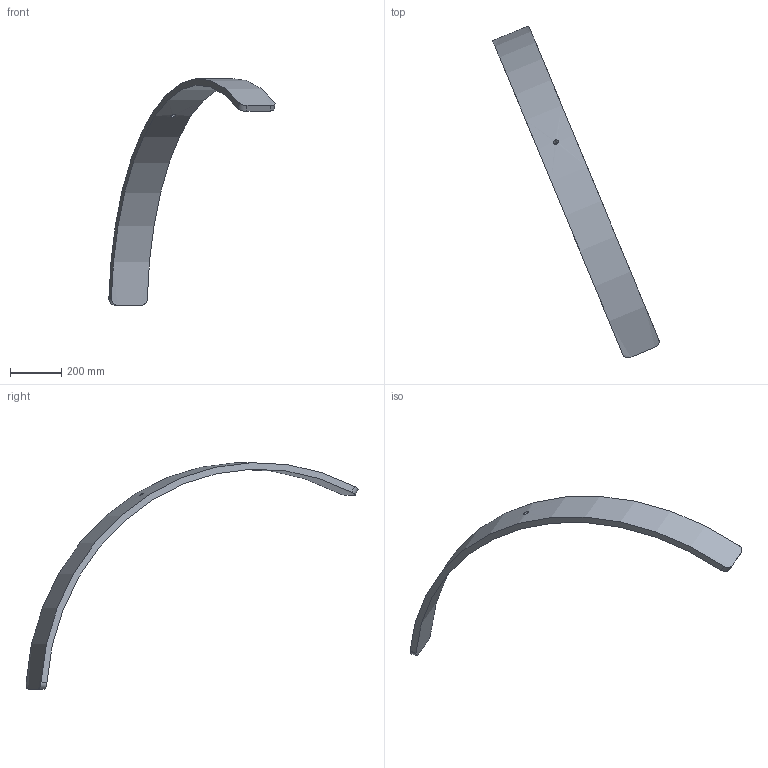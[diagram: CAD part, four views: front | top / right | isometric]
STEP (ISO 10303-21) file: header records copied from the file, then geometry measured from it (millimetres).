
FILE_DESCRIPTION (( 'STEP AP214' ), '1' );
FILE_NAME ('Section 11 AR.STEP', '2025-01-09T19:43:25', ( '' ), ( '' ), 'SwSTEP 2.0', 'SolidWorks 2024', '' );
FILE_SCHEMA (( 'AUTOMOTIVE_DESIGN' ));
Length unit declared in the file: inch
Products named in the file (1): Section 11 AR
Bounding box: 650.99 x 1299.71 x 886.91 mm (x, y, z)
Volume: 7080191.7 mm3; surface area: 658881.8 mm2
Topology: 1 solids, 1 shells, 11 faces, 27 edges, 18 vertices
Faces by surface type: cylinder 7, plane 4
Full cylindrical faces by diameter (mm): 19.447 x1
Entity records: 745 total; most frequent: CARTESIAN_POINT 470, ORIENTED_EDGE 52, DIRECTION 44, EDGE_CURVE 26, VERTEX_POINT 18, AXIS2_PLACEMENT_3D 16, EDGE_LOOP 14, LINE 12
